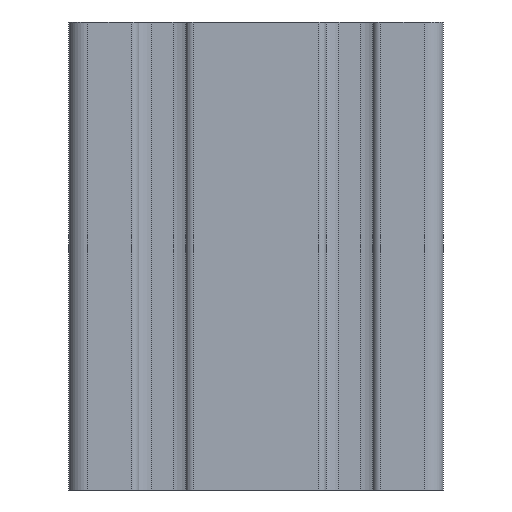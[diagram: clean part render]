
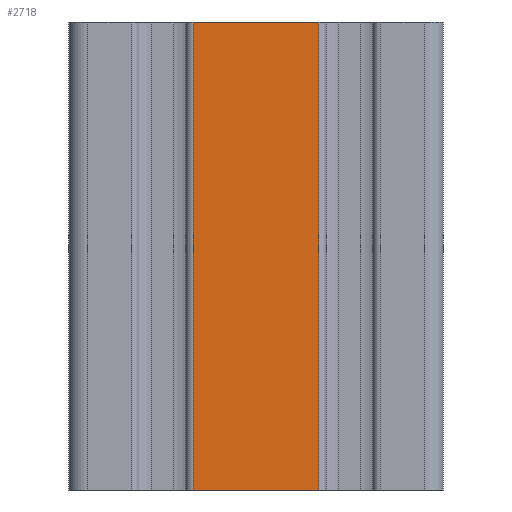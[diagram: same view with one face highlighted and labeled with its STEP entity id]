
A CAD part, front view. The second image highlights one B-rep face of the part: STEP entity #2718.
In plain terms, the highlighted planar face has unit normal (0, -1, 0).
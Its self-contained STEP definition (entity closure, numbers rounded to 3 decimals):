
#121 = CARTESIAN_POINT ( 'NONE',  ( 26.7, 0., 50. ) ) ;
#236 = DIRECTION ( 'NONE',  ( 0., 0., -1. ) ) ;
#287 = LINE ( 'NONE', #970, #2611 ) ;
#327 = VERTEX_POINT ( 'NONE', #2740 ) ;
#406 = EDGE_LOOP ( 'NONE', ( #1815, #533, #3849, #2413 ) ) ;
#533 = ORIENTED_EDGE ( 'NONE', *, *, #3264, .F. ) ;
#624 = EDGE_CURVE ( 'NONE', #3538, #2809, #1390, .T. ) ;
#689 = DIRECTION ( 'NONE',  ( 0., -1., 0. ) ) ;
#698 = FACE_OUTER_BOUND ( 'NONE', #406, .T. ) ;
#774 = DIRECTION ( 'NONE',  ( -1., 0., 0. ) ) ;
#970 = CARTESIAN_POINT ( 'NONE',  ( 26.7, 0., 50. ) ) ;
#1386 = EDGE_CURVE ( 'NONE', #327, #2809, #3290, .T. ) ;
#1390 = LINE ( 'NONE', #1739, #2166 ) ;
#1739 = CARTESIAN_POINT ( 'NONE',  ( 26.7, 0., 0. ) ) ;
#1776 = LINE ( 'NONE', #4155, #4227 ) ;
#1815 = ORIENTED_EDGE ( 'NONE', *, *, #624, .F. ) ;
#2151 = DIRECTION ( 'NONE',  ( -1., 0., 0. ) ) ;
#2166 = VECTOR ( 'NONE', #774, 1000. ) ;
#2403 = VECTOR ( 'NONE', #236, 1000. ) ;
#2413 = ORIENTED_EDGE ( 'NONE', *, *, #1386, .T. ) ;
#2611 = VECTOR ( 'NONE', #2622, 1000. ) ;
#2622 = DIRECTION ( 'NONE',  ( 0., 0., -1. ) ) ;
#2670 = PLANE ( 'NONE',  #3524 ) ;
#2718 = ADVANCED_FACE ( 'NONE', ( #698 ), #2670, .T. ) ;
#2740 = CARTESIAN_POINT ( 'NONE',  ( 13.3, 0., 50. ) ) ;
#2809 = VERTEX_POINT ( 'NONE', #3745 ) ;
#3006 = DIRECTION ( 'NONE',  ( 1., 0., 0. ) ) ;
#3215 = CARTESIAN_POINT ( 'NONE',  ( 13.3, 0., 50. ) ) ;
#3264 = EDGE_CURVE ( 'NONE', #3884, #3538, #287, .T. ) ;
#3290 = LINE ( 'NONE', #3215, #2403 ) ;
#3437 = CARTESIAN_POINT ( 'NONE',  ( 26.7, 0., 0. ) ) ;
#3524 = AXIS2_PLACEMENT_3D ( 'NONE', #3660, #689, #3006 ) ;
#3538 = VERTEX_POINT ( 'NONE', #3437 ) ;
#3660 = CARTESIAN_POINT ( 'NONE',  ( 26.7, 0., 50. ) ) ;
#3745 = CARTESIAN_POINT ( 'NONE',  ( 13.3, 0., 0. ) ) ;
#3849 = ORIENTED_EDGE ( 'NONE', *, *, #4014, .T. ) ;
#3884 = VERTEX_POINT ( 'NONE', #121 ) ;
#4014 = EDGE_CURVE ( 'NONE', #3884, #327, #1776, .T. ) ;
#4155 = CARTESIAN_POINT ( 'NONE',  ( 26.7, 0., 50. ) ) ;
#4227 = VECTOR ( 'NONE', #2151, 1000. ) ;
